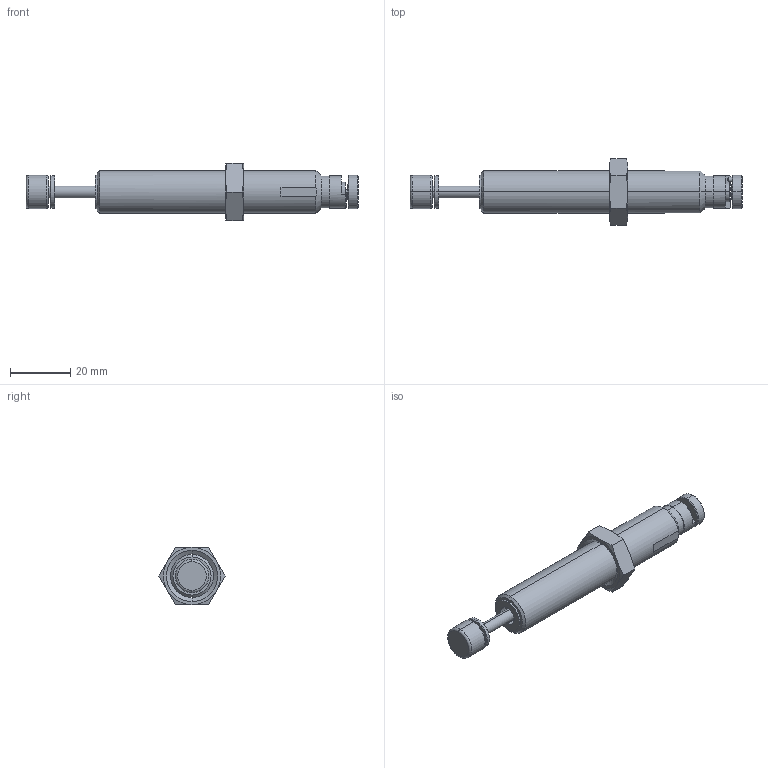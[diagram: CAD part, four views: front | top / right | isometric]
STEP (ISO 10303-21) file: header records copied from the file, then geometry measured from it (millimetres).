
FILE_DESCRIPTION (( 'STEP AP203' ), '1' );
FILE_NAME ('ECO (LR)OEM .35MB.STEP', '2015-04-09T14:00:26', ( 'ITT' ), ( 'ITT' ), 'SwSTEP 2.0', 'SolidWorks 2011', '' );
FILE_SCHEMA (( 'CONFIG_CONTROL_DESIGN' ));
Length unit declared in the file: inch
Products named in the file (1): ECO (LR)OEM .35MB
Bounding box: 110.53 x 22 x 19.05 mm (x, y, z)
Surface area: 6242.1 mm2 (no closed solid volume)
Topology: 0 solids, 12 shells, 105 faces, 259 edges, 168 vertices
Faces by surface type: plane 40, cone 35, cylinder 24, torus 6
Entity records: 3330 total; most frequent: CARTESIAN_POINT 751, DIRECTION 560, ORIENTED_EDGE 458, EDGE_CURVE 259, AXIS2_PLACEMENT_3D 229, VERTEX_POINT 168, CIRCLE 123, EDGE_LOOP 121
